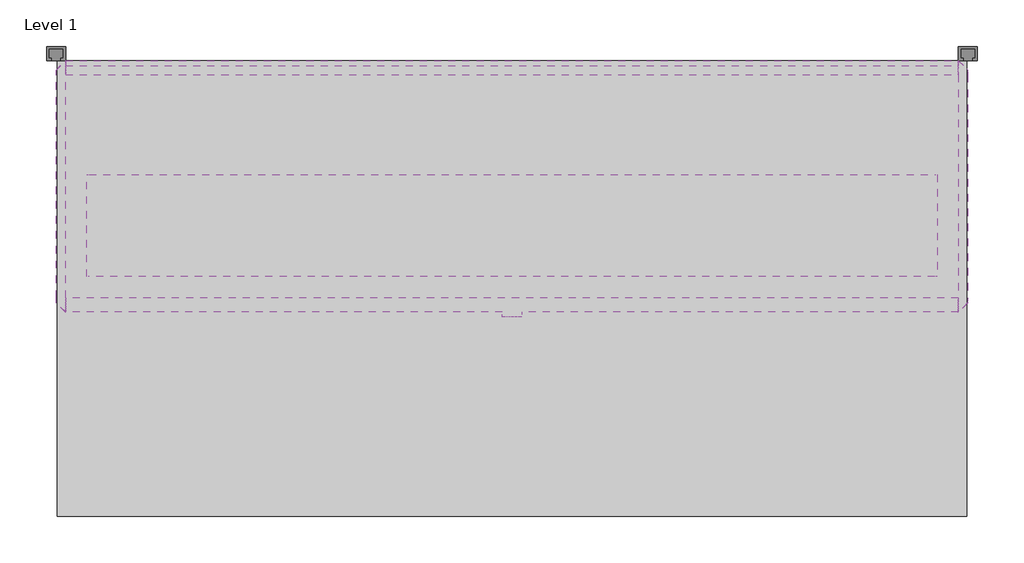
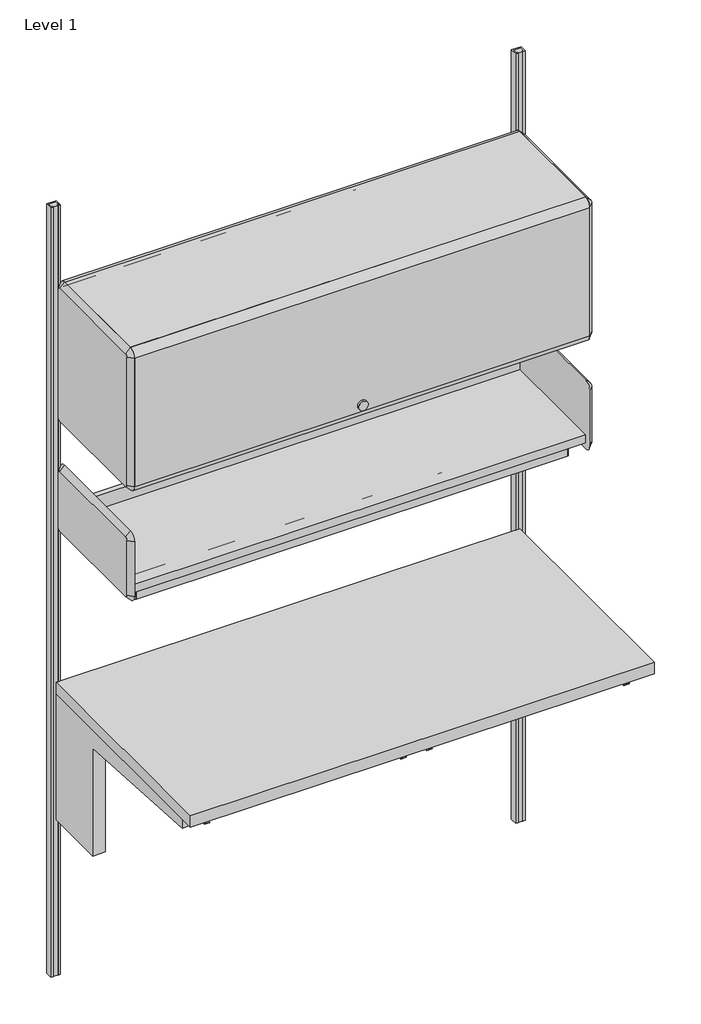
# One storey: 7 furniture elements, 1 light fixture.
"""IFC4 building model written with IfcOpenShell, lengths in millimetres."""

from ifc_helpers import new_model, si_unit, origin, place, context, project, spatial, transform, mapped, element, save
from components import furniture_de886b3f, furniture_d9179111, furniture_13607bd2, furniture_8d228605, furniture_ebb16344, furniture_84h_ea425779, light_fixture_48w_for_action_office_390cad34

model = new_model("IFC4")

# Units and contexts
model_context = context("Model", 3, world=origin())
ifc_project = project(units=[si_unit("LENGTHUNIT", "METRE", prefix="MILLI")], contexts=[model_context])

# Site, building, storey
site = spatial("IfcSite", under=ifc_project)
building = spatial("IfcBuilding", under=site)
storey = spatial("IfcBuildingStorey", under=building, Name="Level 1", Elevation=0.0)

# Furniture
placement = place(None, origin())
furniture_shape = furniture_de886b3f(model_context)
element("IfcFurniture", 1, ObjectType="HermanMiller_CoStruc_C2141_Heavy-DutyWorkSurface : 24D x 48W Lam", at=placement, inside=storey, context=model_context, shape_type="MappedRepresentation", body=[
    mapped(furniture_shape, transform((304.8, -196.85, 0.0), x_axis=(1.0, 0.0, 0.0), y_axis=(0.0, 1.0, 0.0), z_axis=(0.0, 0.0, 1.0))),
])
furniture_2_shape = furniture_d9179111(model_context)
element("IfcFurniture", 2, ObjectType="HermanMiller_ActionOffice_A3220_B-StyleStorageDisplay : Shelf 13D x 48W", at=placement, inside=storey, context=model_context, shape_type="MappedRepresentation", body=[
    mapped(furniture_2_shape, transform((733.5420045, -200.025, 0.0), x_axis=(1.0, 0.0, 0.0), y_axis=(0.0, 1.0, 0.0), z_axis=(0.0, 0.0, 1.0))),
])
furniture_3_shape = furniture_13607bd2(model_context)
element("IfcFurniture", 3, ObjectType="HermanMiller_CoStruc_C2140R_WorkSurfaceSupport_ComponentAdaptorReady : 14H x 24D x 48W", at=placement, inside=storey, context=model_context, shape_type="MappedRepresentation", body=[
    mapped(furniture_3_shape, transform((609.6, -196.85, 0.0), x_axis=(1.0, 0.0, 0.0), y_axis=(0.0, 1.0, 0.0), z_axis=(0.0, 0.0, 1.0))),
])
furniture_4_shape = furniture_8d228605(model_context)
element("IfcFurniture", 4, ObjectType="HermanMiller_CoStruc_B-StyleShelf : 15-1/2H x 13D x 48W", at=placement, inside=storey, context=model_context, shape_type="MappedRepresentation", body=[
    mapped(furniture_4_shape, transform((733.5420045, -200.025, 457.2), x_axis=(1.0, 0.0, 0.0), y_axis=(0.0, 1.0, 0.0), z_axis=(0.0, 0.0, 1.0))),
])
furniture_5_shape = furniture_ebb16344(model_context)
element("IfcFurniture", 5, ObjectType="HermanMiller_ActionOffice_B-StyleFlipperDoor : Paint 15-1/2H x 13D x 48W", at=placement, inside=storey, context=model_context, shape_type="MappedRepresentation", body=[
    mapped(furniture_5_shape, transform((609.6, -200.025, 457.2), x_axis=(1.0, 0.0, 0.0), y_axis=(0.0, 1.0, 0.0), z_axis=(0.0, 0.0, 1.0))),
])
furniture_84h_shape = furniture_84h_ea425779(model_context)
element("IfcFurniture", 6, ObjectType="HermanMiller_ActionOffice_AO213_WallStrip : 84H", at=placement, inside=storey, context=model_context, shape_type="MappedRepresentation", body=[
    mapped(furniture_84h_shape, transform((1219.2076613, 0.0, 0.0), x_axis=(1.0, 0.0, 0.0), y_axis=(0.0, 1.0, 0.0), z_axis=(0.0, 0.0, 1.0))),
])
element("IfcFurniture", 7, ObjectType="HermanMiller_ActionOffice_AO213_WallStrip : 84H", at=placement, inside=storey, context=model_context, shape_type="MappedRepresentation", body=[
    mapped(furniture_84h_shape, transform((0.0, 0.0, 0.0), x_axis=(1.0, 0.0, 0.0), y_axis=(0.0, 1.0, 0.0), z_axis=(0.0, 0.0, 1.0))),
])

# Light fixture
light_fixture_48w_for_action_office_shape = light_fixture_48w_for_action_office_390cad34(model_context)
element("IfcLightFixture", 8, ObjectType="HermanMiller_SupplementalProducts_G6170_EUnderShelfLEDTaskLight : 48W for Action Office", at=placement, inside=storey, context=model_context, shape_type="MappedRepresentation", body=[
    mapped(light_fixture_48w_for_action_office_shape, transform((609.6, -239.776, 0.0), x_axis=(1.0, 0.0, 0.0), y_axis=(0.0, 1.0, 0.0), z_axis=(0.0, 0.0, 1.0))),
])

save(model, "model.ifc")
